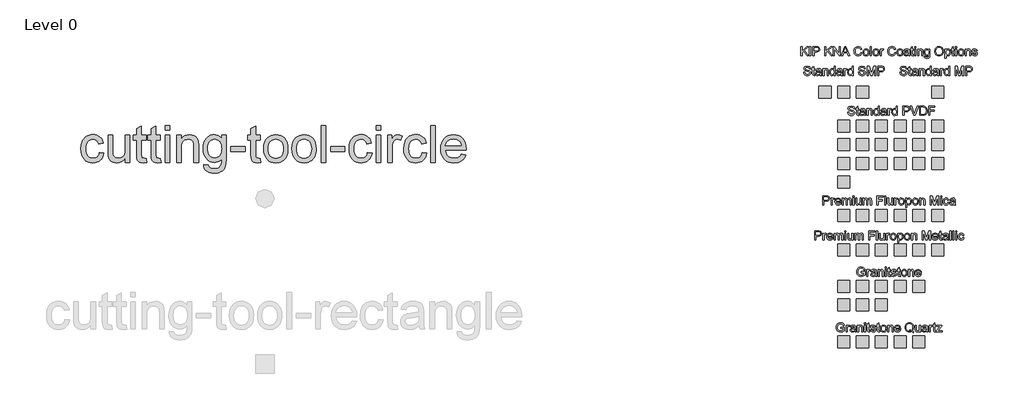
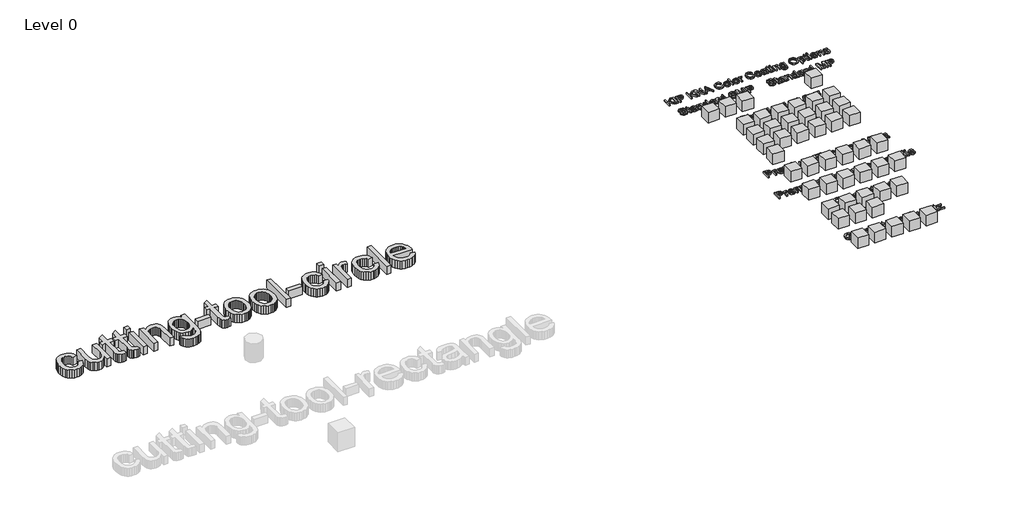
# One storey, part 4 of 4: 50 proxies.
"""IFC4 building model written with IfcOpenShell, lengths in millimetres."""

from ifc_helpers import new_model, si_unit, origin, origin_with_axes, place, context, project, spatial, polyline, outline, extrude, transform, mapped, element, save
from components import ks_color_sample_ks_color_sample_0243efec, r19_kna_color_range_kingspan_quadcore_4278cd54, r19_kna_color_range_kingspan_quadcore_c5814d20, r19_kna_color_range_kingspan_quadcore_91b79b7c

model = new_model("IFC4")

# Units and contexts
model_context = context("Model", 3, world=origin())
ifc_project = project(units=[si_unit("LENGTHUNIT", "METRE", prefix="MILLI")], contexts=[model_context])

# Site, building, storey
site = spatial("IfcSite", under=ifc_project)
building = spatial("IfcBuilding", under=site)
storey = spatial("IfcBuildingStorey", under=building, Name="Level 0", Elevation=0.0)

# Proxies
placement = place(None, origin())
element("IfcBuildingElementProxy", 1, Name="24\" Arial", ObjectType="24\" Arial", at=placement, inside=storey, context=model_context, shape_type="SweptSolid", body=[
    extrude(outline(polyline([(187.9481859, 12639.6724296), (264.0899595, 12630.1547079), (255.8084262, 12594.226238), (242.8609787, 12562.4338874), (225.2476167, 12534.777656), (202.9683405, 12511.257544), (176.9619095, 12492.4869981), (148.1670836, 12479.0794654), (116.5838626, 12471.0349457), (82.2122465, 12468.3534392), (39.5079767, 12472.0945358), (1.2186657, 12483.3178258), (-32.6556866, 12502.0233091), (-62.11508, 12528.2109857), (-85.9605048, 12561.3882392), (-102.9929511, 12601.0624531), (-113.2124189, 12647.2336274), (-116.6189081, 12699.9017622), (-110.8004572, 12767.6597613), (-103.5273935, 12798.1508609), (-93.3451043, 12826.3833605), (-80.1838798, 12851.7902866), (-63.97401, 12873.8046653), (-44.7154951, 12892.4264967), (-22.4083348, 12907.6557809), (1.9390011, 12919.4971651), (27.3180431, 12927.9552967), (53.7287914, 12933.0301757), (81.1712457, 12934.721802), (114.9526515, 12932.3981394), (145.5088136, 12925.4271519), (172.8397322, 12913.8088393), (196.9454072, 12897.5432016), (217.416874, 12877.0020249), (233.8451681, 12852.5570952), (246.2302893, 12824.2084124), (254.5722378, 12791.9559766), (178.4304642, 12782.4382549), (164.6186142, 12815.6573343), (143.1107939, 12839.4702279), (115.0967186, 12853.8025783), (81.7661033, 12858.5800285), (55.8944448, 12856.228482), (32.5602258, 12849.1738426), (11.7634462, 12837.4161102), (-6.4958939, 12820.9552849), (-21.3626867, 12799.410286), (-31.9818244, 12772.4000328), (-38.3533071, 12739.9245254), (-40.4771346, 12701.9837638), (-38.3997803, 12663.4713811), (-32.1677174, 12630.6194404), (-21.780946, 12603.4279416), (-7.2394659, 12581.8968846), (10.6573828, 12565.5336532), (31.1102604, 12553.8456307), (54.1191667, 12546.8328172), (79.6841017, 12544.4952127), (119.1120074, 12550.3322529), (136.163043, 12557.6285533), (151.4388004, 12567.8433737), (164.5117257, 12581.0882501), (174.9542651, 12597.4747182), (182.7664185, 12617.002778), (187.9481859, 12639.6724296)])), origin_with_axes(), (0.0, 0.0, 1.0), 152.4),
    extrude(outline(polyline([(616.245662, 12477.8711609), (616.245662, 12554.7565064), (588.6963191, 12516.9551645), (556.611187, 12489.954206), (519.9902657, 12473.7536309), (478.8335551, 12468.3534392), (441.7479012, 12472.1456564), (407.2275708, 12483.5223081), (378.2654411, 12500.6244643), (357.8543895, 12521.5931949), (344.1168967, 12547.0605361), (335.1754433, 12577.6585242), (330.7140113, 12648.4465793), (330.7140113, 12925.2040803), (406.8557848, 12925.2040803), (406.8557848, 12684.28675), (408.0083214, 12636.103284), (411.4659312, 12606.6578325), (422.5637434, 12580.7629373), (441.5805975, 12561.0768685), (467.2524211, 12548.6406266), (498.3151417, 12544.4952127), (531.1624351, 12548.7335731), (561.8905483, 12561.4486545), (587.2277644, 12581.4693307), (603.9023667, 12607.6244761), (613.1598381, 12643.4460575), (616.245662, 12692.4660421), (616.245662, 12925.2040803), (692.3874355, 12925.2040803), (692.3874355, 12477.8711609), (616.245662, 12477.8711609)])), origin_with_axes(), (0.0, 0.0, 1.0), 152.4),
    extrude(outline(polyline([(958.8836428, 12541.3722103), (968.4013645, 12475.6404448), (938.2495196, 12470.1751906), (911.4437488, 12468.3534392), (874.8971846, 12471.5136202), (847.6452706, 12480.9941633), (828.3867556, 12495.6053532), (815.8203887, 12514.1574748), (808.905169, 12546.0195353), (806.6000958, 12600.560542), (806.6000958, 12849.0623068), (749.4937656, 12849.0623068), (749.4937656, 12925.2040803), (806.6000958, 12925.2040803), (806.6000958, 13033.9143077), (882.7418693, 13078.6773425), (882.7418693, 12925.2040803), (958.8836428, 12925.2040803), (958.8836428, 12849.0623068), (882.7418693, 12849.0623068), (882.7418693, 12602.791258), (886.7571581, 12563.5306561), (899.7696682, 12549.6258595), (910.7559446, 12545.7778744), (925.7203313, 12544.4952127), (958.8836428, 12541.3722103)])), origin_with_axes(), (0.0, 0.0, 1.0), 152.4),
    extrude(outline(polyline([(1196.826685, 12541.3722103), (1206.3444067, 12475.6404448), (1176.1925618, 12470.1751906), (1149.386791, 12468.3534392), (1112.8402268, 12471.5136202), (1085.5883128, 12480.9941633), (1066.3297978, 12495.6053532), (1053.7634309, 12514.1574748), (1046.8482112, 12546.0195353), (1044.543138, 12600.560542), (1044.543138, 12849.0623068), (987.4368079, 12849.0623068), (987.4368079, 12925.2040803), (1044.543138, 12925.2040803), (1044.543138, 13033.9143077), (1120.6849115, 13078.6773425), (1120.6849115, 12925.2040803), (1196.826685, 12925.2040803), (1196.826685, 12849.0623068), (1120.6849115, 12849.0623068), (1120.6849115, 12602.791258), (1124.7002004, 12563.5306561), (1137.7127105, 12549.6258595), (1148.6989869, 12545.7778744), (1163.6633735, 12544.4952127), (1196.826685, 12541.3722103)])), origin_with_axes(), (0.0, 0.0, 1.0), 152.4),
    extrude(outline(polyline([(1272.9684586, 13010.8635755), (1272.9684586, 13087.005349), (1349.1102321, 13087.005349), (1349.1102321, 13010.8635755), (1272.9684586, 13010.8635755)])), origin_with_axes(), (0.0, 0.0, 1.0), 152.4),
    extrude(outline(polyline([(1272.9684586, 12477.8711609), (1272.9684586, 12925.2040803), (1349.1102321, 12925.2040803), (1349.1102321, 12477.8711609), (1272.9684586, 12477.8711609)])), origin_with_axes(), (0.0, 0.0, 1.0), 152.4),
    extrude(outline(polyline([(1463.3228924, 12477.8711609), (1463.3228924, 12925.2040803), (1539.4646659, 12925.2040803), (1539.4646659, 12862.7440317), (1565.91724, 12894.2343062), (1597.686354, 12916.7273594), (1634.7720079, 12930.2231913), (1677.1742016, 12934.721802), (1714.7059986, 12931.0968884), (1749.0776146, 12920.2221478), (1777.7423155, 12903.4545991), (1798.1533671, 12882.1512611), (1812.0023957, 12856.3679017), (1820.9810277, 12826.1602889), (1824.9963166, 12752.5466603), (1824.9963166, 12477.8711609), (1748.854543, 12477.8711609), (1748.854543, 12742.2853666), (1746.6610056, 12781.6575043), (1740.0803934, 12809.6529904), (1727.9415803, 12829.7108453), (1709.0734407, 12845.2700895), (1684.8887611, 12855.2525437), (1656.8003286, 12858.5800285), (1633.6798865, 12856.7118038), (1612.2045975, 12851.1071298), (1592.3744615, 12841.7660064), (1574.1894786, 12828.6884338), (1558.997373, 12810.3872677), (1548.145869, 12785.3753644), (1541.6349667, 12753.6527236), (1539.4646659, 12715.2193455), (1539.4646659, 12477.8711609), (1463.3228924, 12477.8711609)])), origin_with_axes(), (0.0, 0.0, 1.0), 152.4),
    extrude(outline(polyline([(1910.6558118, 12439.8002741), (1986.7975853, 12430.2825524), (1995.199949, 12406.4882482), (2011.4841759, 12390.129664), (2043.4949508, 12377.4145827), (2085.3952334, 12373.1762223), (2130.083911, 12377.9722617), (2148.1341215, 12383.967311), (2163.3215797, 12392.3603801), (2186.372312, 12415.4111123), (2200.5001801, 12446.1949934), (2204.6270047, 12478.9493403), (2205.7051841, 12534.977491), (2180.367968, 12509.9934716), (2152.0936424, 12492.1477434), (2120.8822074, 12481.4403065), (2086.733663, 12477.8711609), (2044.9867422, 12482.0258695), (2008.2310484, 12494.4899952), (1976.4665817, 12515.2635382), (1949.6933421, 12544.3464983), (1928.4504194, 12579.2386147), (1913.2769031, 12617.4396266), (1904.1727933, 12658.9495339), (1901.1380901, 12703.7683366), (1906.584755, 12765.2431523), (1922.9247499, 12821.7732141), (1935.0356789, 12847.263792), (1949.5818063, 12869.6778407), (1966.563132, 12889.0153602), (1985.9796561, 12905.2763505), (2007.5200077, 12918.1587355), (2030.872816, 12927.3604391), (2056.0380811, 12932.8814613), (2083.015803, 12934.721802), (2118.6236075, 12930.5577987), (2150.9411058, 12918.065789), (2179.968298, 12897.2457728), (2205.7051841, 12868.0977501), (2205.7051841, 12925.2040803), (2281.8469577, 12925.2040803), (2281.8469577, 12538.9927798), (2276.6419536, 12449.8199069), (2270.1356985, 12416.6519481), (2261.0269415, 12391.0963076), (2249.0972581, 12370.4854211), (2234.1282241, 12352.1517238), (2216.1198396, 12336.0952158), (2195.0721044, 12322.315897), (2171.1987957, 12311.2552634), (2144.7136903, 12303.3548108), (2115.6167882, 12298.6145393), (2083.9080894, 12297.0344488), (2046.6040113, 12299.2605175), (2013.0642664, 12305.9387235), (1983.2888549, 12317.069067), (1957.2777766, 12332.6515479), (1936.2672201, 12352.7047555), (1921.4933738, 12377.247279), (1912.9562377, 12406.2791186), (1910.6558118, 12439.8002741)]), holes=[polyline([(1977.2798636, 12708.9733406), (1979.3107446, 12671.3253605), (1985.4033878, 12639.1333399), (1995.557793, 12612.3972789), (2009.7739603, 12591.1171775), (2027.0573621, 12574.8840712), (2046.4134709, 12563.2889952), (2067.8422867, 12556.3319496), (2091.3438095, 12554.0129344), (2114.612966, 12556.3180076), (2135.9395406, 12563.2332273), (2155.3235333, 12574.7585934), (2172.7649442, 12590.8941059), (2187.1762992, 12611.9650777), (2197.4701242, 12638.2968214), (2203.6464191, 12669.889337), (2205.7051841, 12706.7426246), (2203.5860039, 12742.0576476), (2197.2284633, 12772.7532295), (2186.6325622, 12798.8293704), (2171.7983006, 12820.2860701), (2153.9804564, 12837.0396769), (2134.4338073, 12849.0065389), (2113.1583532, 12856.1866561), (2090.1540943, 12858.5800285), (2067.5355633, 12856.2238347), (2046.6737211, 12849.1552533), (2027.5685679, 12837.3742843), (2010.2201035, 12820.8809277), (1995.8087485, 12799.7495407), (1985.5149236, 12774.0544806), (1979.3386286, 12743.7957472), (1977.2798636, 12708.9733406)])]), origin_with_axes(), (0.0, 0.0, 1.0), 152.4),
    extrude(outline(polyline([(2357.9887312, 12658.707873), (2357.9887312, 12734.8496465), (2595.9317734, 12734.8496465), (2595.9317734, 12658.707873), (2357.9887312, 12658.707873)])), origin_with_axes(), (0.0, 0.0, 1.0), 152.4),
    extrude(outline(polyline([(2843.3925373, 12541.3722103), (2852.910259, 12475.6404448), (2822.7584142, 12470.1751906), (2795.9526433, 12468.3534392), (2759.4060792, 12471.5136202), (2732.1541651, 12480.9941633), (2712.8956501, 12495.6053532), (2700.3292832, 12514.1574748), (2693.4140635, 12546.0195353), (2691.1089903, 12600.560542), (2691.1089903, 12849.0623068), (2634.0026602, 12849.0623068), (2634.0026602, 12925.2040803), (2691.1089903, 12925.2040803), (2691.1089903, 13033.9143077), (2767.2507638, 13078.6773425), (2767.2507638, 12925.2040803), (2843.3925373, 12925.2040803), (2843.3925373, 12849.0623068), (2767.2507638, 12849.0623068), (2767.2507638, 12602.791258), (2771.2660527, 12563.5306561), (2784.2785628, 12549.6258595), (2795.2648392, 12545.7778744), (2810.2292258, 12544.4952127), (2843.3925373, 12541.3722103)])), origin_with_axes(), (0.0, 0.0, 1.0), 152.4),
    extrude(outline(polyline([(2900.4988675, 12701.5376206), (2904.6163975, 12759.4711746), (2916.9689874, 12809.3927402), (2937.5566374, 12851.3023174), (2966.3793473, 12885.1999063), (2995.3972449, 12906.8657357), (3027.4266091, 12922.3413281), (3062.4674399, 12931.6266835), (3100.5197374, 12934.721802), (3142.5269084, 12930.9528214), (3180.509496, 12919.6458795), (3214.4675001, 12900.8009765), (3244.4009207, 12874.4181122), (3268.8319085, 12841.3895731), (3286.282614, 12802.6076456), (3296.7530373, 12758.0723297), (3300.2431784, 12707.7836254), (3298.7002665, 12667.0265848), (3294.0715308, 12630.8611013), (3286.3569712, 12599.287175), (3275.5565878, 12572.3048058), (3261.805153, 12548.9984707), (3245.2374392, 12528.4526466), (3225.8534465, 12510.6673337), (3203.6531747, 12495.6425318), (3179.5010265, 12483.7035538), (3154.2614042, 12475.1757123), (3127.9343078, 12470.0590075), (3100.5197374, 12468.3534392), (3057.8991194, 12472.1084778), (3019.5633351, 12483.3735937), (2985.5123845, 12502.1487869), (2955.7462676, 12528.4340573), (2931.5755301, 12561.7832619), (2914.3107175, 12601.7502572), (2903.95183, 12648.3350435), (2900.4988675, 12701.5376206)]), holes=[polyline([(2976.640641, 12701.686335), (2978.8434731, 12664.7540429), (2985.4519693, 12632.7757992), (2996.4661296, 12605.7516041), (3011.8859541, 12583.6814575), (3030.642558, 12566.5374754), (3051.6670565, 12554.2917739), (3074.9594496, 12546.944353), (3100.5197374, 12544.4952127), (3125.9499, 12546.958295), (3149.1493466, 12554.3475418), (3170.1180772, 12566.6629532), (3188.8560918, 12583.9045291), (3204.2759163, 12606.1931), (3215.2900766, 12633.6494963), (3221.8985729, 12666.2737181), (3224.1014049, 12704.0657654), (3221.8846309, 12739.8269316), (3215.2343087, 12770.9686567), (3204.1504385, 12797.4909408), (3188.6330202, 12819.3937837), (3169.8252957, 12836.5377658), (3148.8705071, 12848.7834673), (3125.7686543, 12856.1308882), (3100.5197374, 12858.5800285), (3074.9594496, 12856.1401828), (3051.6670565, 12848.8206459), (3030.642558, 12836.6214176), (3011.8859541, 12819.5424981), (2996.4661296, 12797.537414), (2985.4519693, 12770.5596921), (2978.8434731, 12738.6093324), (2976.640641, 12701.686335)])]), origin_with_axes(), (0.0, 0.0, 1.0), 152.4),
    extrude(outline(polyline([(3366.8672303, 12701.5376206), (3370.9847603, 12759.4711746), (3383.3373502, 12809.3927402), (3403.9250002, 12851.3023174), (3432.7477101, 12885.1999063), (3461.7656077, 12906.8657357), (3493.7949719, 12922.3413281), (3528.8358027, 12931.6266835), (3566.8881002, 12934.721802), (3608.8952712, 12930.9528214), (3646.8778588, 12919.6458795), (3680.8358629, 12900.8009765), (3710.7692835, 12874.4181122), (3735.2002713, 12841.3895731), (3752.6509768, 12802.6076456), (3763.1214001, 12758.0723297), (3766.6115412, 12707.7836254), (3765.0686293, 12667.0265848), (3760.4398936, 12630.8611013), (3752.725334, 12599.287175), (3741.9249506, 12572.3048058), (3728.1735158, 12548.9984707), (3711.605802, 12528.4526466), (3692.2218093, 12510.6673337), (3670.0215375, 12495.6425318), (3645.8693893, 12483.7035538), (3620.629767, 12475.1757123), (3594.3026706, 12470.0590075), (3566.8881002, 12468.3534392), (3524.2674822, 12472.1084778), (3485.9316979, 12483.3735937), (3451.8807473, 12502.1487869), (3422.1146304, 12528.4340573), (3397.9438928, 12561.7832619), (3380.6790803, 12601.7502572), (3370.3201928, 12648.3350435), (3366.8672303, 12701.5376206)]), holes=[polyline([(3443.0090038, 12701.686335), (3445.2118359, 12664.7540429), (3451.8203321, 12632.7757992), (3462.8344924, 12605.7516041), (3478.2543169, 12583.6814575), (3497.0109208, 12566.5374754), (3518.0354193, 12554.2917739), (3541.3278124, 12546.944353), (3566.8881002, 12544.4952127), (3592.3182628, 12546.958295), (3615.5177094, 12554.3475418), (3636.48644, 12566.6629532), (3655.2244546, 12583.9045291), (3670.6442791, 12606.1931), (3681.6584394, 12633.6494963), (3688.2669357, 12666.2737181), (3690.4697677, 12704.0657654), (3688.2529937, 12739.8269316), (3681.6026715, 12770.9686567), (3670.5188013, 12797.4909408), (3655.001383, 12819.3937837), (3636.1936585, 12836.5377658), (3615.2388699, 12848.7834673), (3592.1370171, 12856.1308882), (3566.8881002, 12858.5800285), (3541.3278124, 12856.1401828), (3518.0354193, 12848.8206459), (3497.0109208, 12836.6214176), (3478.2543169, 12819.5424981), (3462.8344924, 12797.537414), (3451.8203321, 12770.5596921), (3445.2118359, 12738.6093324), (3443.0090038, 12701.686335)])]), origin_with_axes(), (0.0, 0.0, 1.0), 152.4),
    extrude(outline(polyline([(3852.2710364, 12477.8711609), (3852.2710364, 13087.005349), (3928.41281, 13087.005349), (3928.41281, 12477.8711609), (3852.2710364, 12477.8711609)])), origin_with_axes(), (0.0, 0.0, 1.0), 152.4),
    extrude(outline(polyline([(4004.5545835, 12658.707873), (4004.5545835, 12734.8496465), (4242.4976257, 12734.8496465), (4242.4976257, 12658.707873), (4004.5545835, 12658.707873)])), origin_with_axes(), (0.0, 0.0, 1.0), 152.4),
    extrude(outline(polyline([(4613.6887716, 12639.6724296), (4689.8305451, 12630.1547079), (4681.5490119, 12594.226238), (4668.6015643, 12562.4338874), (4650.9882024, 12534.777656), (4628.7089262, 12511.257544), (4602.7024952, 12492.4869981), (4573.9076692, 12479.0794654), (4542.3244482, 12471.0349457), (4507.9528322, 12468.3534392), (4465.2485624, 12472.0945358), (4426.9592514, 12483.3178258), (4393.0848991, 12502.0233091), (4363.6255057, 12528.2109857), (4339.7800809, 12561.3882392), (4322.7476346, 12601.0624531), (4312.5281668, 12647.2336274), (4309.1216776, 12699.9017622), (4314.9401285, 12767.6597613), (4322.2131922, 12798.1508609), (4332.3954814, 12826.3833605), (4345.5567059, 12851.7902866), (4361.7665756, 12873.8046653), (4381.0250906, 12892.4264967), (4403.3322508, 12907.6557809), (4427.6795867, 12919.4971651), (4453.0586288, 12927.9552967), (4479.469377, 12933.0301757), (4506.9118314, 12934.721802), (4540.6932372, 12932.3981394), (4571.2493993, 12925.4271519), (4598.5803179, 12913.8088393), (4622.6859929, 12897.5432016), (4643.1574597, 12877.0020249), (4659.5857538, 12852.5570952), (4671.970875, 12824.2084124), (4680.3128234, 12791.9559766), (4604.1710499, 12782.4382549), (4590.3591999, 12815.6573343), (4568.8513796, 12839.4702279), (4540.8373042, 12853.8025783), (4507.506689, 12858.5800285), (4481.6350305, 12856.228482), (4458.3008115, 12849.1738426), (4437.5040319, 12837.4161102), (4419.2446918, 12820.9552849), (4404.377899, 12799.410286), (4393.7587612, 12772.4000328), (4387.3872786, 12739.9245254), (4385.2634511, 12701.9837638), (4387.3408054, 12663.4713811), (4393.5728682, 12630.6194404), (4403.9596397, 12603.4279416), (4418.5011198, 12581.8968846), (4436.3979685, 12565.5336532), (4456.850846, 12553.8456307), (4479.8597523, 12546.8328172), (4505.4246874, 12544.4952127), (4544.8525931, 12550.3322529), (4561.9036287, 12557.6285533), (4577.1793861, 12567.8433737), (4590.2523114, 12581.0882501), (4600.6948508, 12597.4747182), (4608.5070042, 12617.002778), (4613.6887716, 12639.6724296)])), origin_with_axes(), (0.0, 0.0, 1.0), 152.4),
    extrude(outline(polyline([(4756.454597, 13010.8635755), (4756.454597, 13087.005349), (4832.5963705, 13087.005349), (4832.5963705, 13010.8635755), (4756.454597, 13010.8635755)])), origin_with_axes(), (0.0, 0.0, 1.0), 152.4),
    extrude(outline(polyline([(4756.454597, 12477.8711609), (4756.454597, 12925.2040803), (4832.5963705, 12925.2040803), (4832.5963705, 12477.8711609), (4756.454597, 12477.8711609)])), origin_with_axes(), (0.0, 0.0, 1.0), 152.4),
    extrude(outline(polyline([(4946.8090308, 12477.8711609), (4946.8090308, 12925.2040803), (5013.4330826, 12925.2040803), (5013.4330826, 12859.0261717), (5038.045316, 12897.3944872), (5060.7242622, 12919.9990762), (5083.4775656, 12931.0411205), (5108.3128707, 12934.721802), (5146.235043, 12928.8475831), (5184.752073, 12911.2249265), (5159.3219104, 12842.9650163), (5132.5533181, 12854.6762754), (5105.7847259, 12858.5800285), (5083.0500117, 12854.8249898), (5062.7319066, 12843.5598739), (5046.3175546, 12825.6397885), (5035.2940996, 12801.9198415), (5026.0366281, 12759.3875227), (5022.9508043, 12712.9886295), (5022.9508043, 12477.8711609), (4946.8090308, 12477.8711609)])), origin_with_axes(), (0.0, 0.0, 1.0), 152.4),
    extrude(outline(polyline([(5517.8723321, 12639.6724296), (5594.0141057, 12630.1547079), (5585.7325724, 12594.226238), (5572.7851249, 12562.4338874), (5555.1717629, 12534.777656), (5532.8924867, 12511.257544), (5506.8860557, 12492.4869981), (5478.0912298, 12479.0794654), (5446.5080088, 12471.0349457), (5412.1363927, 12468.3534392), (5369.4321229, 12472.0945358), (5331.1428119, 12483.3178258), (5297.2684596, 12502.0233091), (5267.8090662, 12528.2109857), (5243.9636414, 12561.3882392), (5226.9311951, 12601.0624531), (5216.7117273, 12647.2336274), (5213.3052381, 12699.9017622), (5219.123689, 12767.6597613), (5226.3967527, 12798.1508609), (5236.5790419, 12826.3833605), (5249.7402664, 12851.7902866), (5265.9501362, 12873.8046653), (5285.2086511, 12892.4264967), (5307.5158114, 12907.6557809), (5331.8631473, 12919.4971651), (5357.2421893, 12927.9552967), (5383.6529375, 12933.0301757), (5411.0953919, 12934.721802), (5444.8767977, 12932.3981394), (5475.4329598, 12925.4271519), (5502.7638784, 12913.8088393), (5526.8695534, 12897.5432016), (5547.3410202, 12877.0020249), (5563.7693143, 12852.5570952), (5576.1544355, 12824.2084124), (5584.496384, 12791.9559766), (5508.3546104, 12782.4382549), (5494.5427604, 12815.6573343), (5473.0349401, 12839.4702279), (5445.0208647, 12853.8025783), (5411.6902495, 12858.5800285), (5385.818591, 12856.228482), (5362.484372, 12849.1738426), (5341.6875924, 12837.4161102), (5323.4282523, 12820.9552849), (5308.5614595, 12799.410286), (5297.9423218, 12772.4000328), (5291.5708391, 12739.9245254), (5289.4470116, 12701.9837638), (5291.5243659, 12663.4713811), (5297.7564288, 12630.6194404), (5308.1432002, 12603.4279416), (5322.6846803, 12581.8968846), (5340.581529, 12565.5336532), (5361.0344066, 12553.8456307), (5384.0433128, 12546.8328172), (5409.6082479, 12544.4952127), (5449.0361536, 12550.3322529), (5466.0871892, 12557.6285533), (5481.3629466, 12567.8433737), (5494.4358719, 12581.0882501), (5504.8784113, 12597.4747182), (5512.6905647, 12617.002778), (5517.8723321, 12639.6724296)])), origin_with_axes(), (0.0, 0.0, 1.0), 152.4),
    extrude(outline(polyline([(5660.6381575, 12477.8711609), (5660.6381575, 13087.005349), (5736.779931, 13087.005349), (5736.779931, 12477.8711609), (5660.6381575, 12477.8711609)])), origin_with_axes(), (0.0, 0.0, 1.0), 152.4),
    extrude(outline(polyline([(6164.1851206, 12611.1192645), (6238.8397501, 12601.6015428), (6227.3933885, 12571.7006535), (6211.9410328, 12545.3503205), (6192.4826828, 12522.5505438), (6169.0183387, 12503.3013235), (6141.7896612, 12488.0116241), (6111.0383114, 12477.0904103), (6076.7642892, 12470.5376819), (6038.9675946, 12468.3534392), (5991.7228882, 12472.1224198), (5949.627418, 12483.4293616), (5912.6811839, 12502.2742647), (5880.884186, 12528.6571289), (5855.3146036, 12561.8436771), (5837.0506161, 12601.0996317), (5826.0922237, 12646.4249929), (5822.4394262, 12697.8197605), (5826.1294023, 12750.9572751), (5837.1993305, 12797.7930169), (5855.649211, 12838.3269859), (5881.4790436, 12872.5591822), (5913.1923897, 12899.7553283), (5949.2928106, 12919.181147), (5989.7803064, 12930.8366382), (6034.654877, 12934.721802), (6078.0841295, 12930.8459329), (6117.3586735, 12919.2183256), (6152.4785088, 12899.8389802), (6183.4436356, 12872.7078966), (6208.7204365, 12838.5500575), (6226.7752943, 12798.0904457), (6237.608209, 12751.3290611), (6241.2191805, 12698.2659037), (6240.7730373, 12677.7433163), (5898.5811997, 12677.7433163), (5902.9915112, 12647.3591052), (5911.7610135, 12620.748522), (5924.8897068, 12597.9115667), (5942.3775909, 12578.8482394), (5963.2580224, 12563.8187902), (5986.5643574, 12553.0834694), (6012.2965962, 12546.6422769), (6040.4547387, 12544.4952127), (6080.979413, 12548.4733229), (6115.1093682, 12560.4076536), (6142.844604, 12581.0417768), (6164.1851206, 12611.1192645)]), holes=[polyline([(5898.5811997, 12753.8850899), (6165.077407, 12753.8850899), (6154.7789347, 12794.1123354), (6145.9211332, 12809.9318299), (6134.5909547, 12822.8885721), (6113.8267064, 12838.5035843), (6090.1997059, 12849.6571644), (6063.7099532, 12856.3493124), (6034.3574482, 12858.5800285), (6007.5842086, 12856.800103), (5983.0323904, 12851.4603265), (5960.7019936, 12842.560699), (5940.5930181, 12830.1012206), (5923.7185809, 12814.6581595), (5911.0917987, 12796.807784), (5902.7126717, 12776.5500941), (5898.5811997, 12753.8850899)])]), origin_with_axes(), (0.0, 0.0, 1.0), 152.4),
])
ks_color_sample_ks_color_sample_shape = ks_color_sample_ks_color_sample_0243efec(model_context)
element("IfcBuildingElementProxy", 2, Name="KS_Color Sample : KS_Color Sample", ObjectType="KS_Color Sample : KS_Color Sample", at=placement, inside=storey, context=model_context, shape_type="MappedRepresentation", body=[
    mapped(ks_color_sample_ks_color_sample_shape, transform((12166.5853815, 13639.2290821, 0.0), x_axis=(1.0, 0.0, 0.0), y_axis=(0.0, 1.0, 0.0), z_axis=(0.0, 0.0, 1.0))),
])
element("IfcBuildingElementProxy", 3, Name="KS_Color Sample : KS_Color Sample", ObjectType="KS_Color Sample : KS_Color Sample", at=placement, inside=storey, context=model_context, shape_type="MappedRepresentation", body=[
    mapped(ks_color_sample_ks_color_sample_shape, transform((12476.5853815, 13639.2290821, 0.0), x_axis=(1.0, 0.0, 0.0), y_axis=(0.0, 1.0, 0.0), z_axis=(0.0, 0.0, 1.0))),
])
element("IfcBuildingElementProxy", 4, Name="KS_Color Sample : KS_Color Sample", ObjectType="KS_Color Sample : KS_Color Sample", at=placement, inside=storey, context=model_context, shape_type="MappedRepresentation", body=[
    mapped(ks_color_sample_ks_color_sample_shape, transform((12786.5853815, 13639.2290821, 0.0), x_axis=(1.0, 0.0, 0.0), y_axis=(0.0, 1.0, 0.0), z_axis=(0.0, 0.0, 1.0))),
])
element("IfcBuildingElementProxy", 5, Name="KS_Color Sample : KS_Color Sample", ObjectType="KS_Color Sample : KS_Color Sample", at=placement, inside=storey, context=model_context, shape_type="MappedRepresentation", body=[
    mapped(ks_color_sample_ks_color_sample_shape, transform((14026.5853815, 13639.2290821, 0.0), x_axis=(1.0, 0.0, 0.0), y_axis=(0.0, 1.0, 0.0), z_axis=(0.0, 0.0, 1.0))),
])
element("IfcBuildingElementProxy", 6, Name="KS_Color Sample : KS_Color Sample", ObjectType="KS_Color Sample : KS_Color Sample", at=placement, inside=storey, context=model_context, shape_type="MappedRepresentation", body=[
    mapped(ks_color_sample_ks_color_sample_shape, transform((12786.5853815, 13079.2290821, 0.0), x_axis=(1.0, 0.0, 0.0), y_axis=(0.0, 1.0, 0.0), z_axis=(0.0, 0.0, 1.0))),
])
element("IfcBuildingElementProxy", 7, Name="KS_Color Sample : KS_Color Sample", ObjectType="KS_Color Sample : KS_Color Sample", at=placement, inside=storey, context=model_context, shape_type="MappedRepresentation", body=[
    mapped(ks_color_sample_ks_color_sample_shape, transform((13096.5853815, 13079.2290821, 0.0), x_axis=(1.0, 0.0, 0.0), y_axis=(0.0, 1.0, 0.0), z_axis=(0.0, 0.0, 1.0))),
])
element("IfcBuildingElementProxy", 8, Name="KS_Color Sample : KS_Color Sample", ObjectType="KS_Color Sample : KS_Color Sample", at=placement, inside=storey, context=model_context, shape_type="MappedRepresentation", body=[
    mapped(ks_color_sample_ks_color_sample_shape, transform((13406.5853815, 13079.2290821, 0.0), x_axis=(1.0, 0.0, 0.0), y_axis=(0.0, 1.0, 0.0), z_axis=(0.0, 0.0, 1.0))),
])
element("IfcBuildingElementProxy", 9, Name="KS_Color Sample : KS_Color Sample", ObjectType="KS_Color Sample : KS_Color Sample", at=placement, inside=storey, context=model_context, shape_type="MappedRepresentation", body=[
    mapped(ks_color_sample_ks_color_sample_shape, transform((13716.5853815, 13079.2290821, 0.0), x_axis=(1.0, 0.0, 0.0), y_axis=(0.0, 1.0, 0.0), z_axis=(0.0, 0.0, 1.0))),
])
element("IfcBuildingElementProxy", 10, Name="KS_Color Sample : KS_Color Sample", ObjectType="KS_Color Sample : KS_Color Sample", at=placement, inside=storey, context=model_context, shape_type="MappedRepresentation", body=[
    mapped(ks_color_sample_ks_color_sample_shape, transform((12476.5853815, 11599.2290821, 0.0), x_axis=(1.0, 0.0, 0.0), y_axis=(0.0, 1.0, 0.0), z_axis=(0.0, 0.0, 1.0))),
])
element("IfcBuildingElementProxy", 11, Name="KS_Color Sample : KS_Color Sample", ObjectType="KS_Color Sample : KS_Color Sample", at=placement, inside=storey, context=model_context, shape_type="MappedRepresentation", body=[
    mapped(ks_color_sample_ks_color_sample_shape, transform((12786.5853815, 11599.2290821, 0.0), x_axis=(1.0, 0.0, 0.0), y_axis=(0.0, 1.0, 0.0), z_axis=(0.0, 0.0, 1.0))),
])
element("IfcBuildingElementProxy", 12, Name="KS_Color Sample : KS_Color Sample", ObjectType="KS_Color Sample : KS_Color Sample", at=placement, inside=storey, context=model_context, shape_type="MappedRepresentation", body=[
    mapped(ks_color_sample_ks_color_sample_shape, transform((13096.5853815, 11599.2290821, 0.0), x_axis=(1.0, 0.0, 0.0), y_axis=(0.0, 1.0, 0.0), z_axis=(0.0, 0.0, 1.0))),
])
element("IfcBuildingElementProxy", 13, Name="KS_Color Sample : KS_Color Sample", ObjectType="KS_Color Sample : KS_Color Sample", at=placement, inside=storey, context=model_context, shape_type="MappedRepresentation", body=[
    mapped(ks_color_sample_ks_color_sample_shape, transform((13406.5853815, 11599.2290821, 0.0), x_axis=(1.0, 0.0, 0.0), y_axis=(0.0, 1.0, 0.0), z_axis=(0.0, 0.0, 1.0))),
])
element("IfcBuildingElementProxy", 14, Name="KS_Color Sample : KS_Color Sample", ObjectType="KS_Color Sample : KS_Color Sample", at=placement, inside=storey, context=model_context, shape_type="MappedRepresentation", body=[
    mapped(ks_color_sample_ks_color_sample_shape, transform((14026.5853815, 13079.2290821, 0.0), x_axis=(1.0, 0.0, 0.0), y_axis=(0.0, 1.0, 0.0), z_axis=(0.0, 0.0, 1.0))),
])
element("IfcBuildingElementProxy", 15, Name="KS_Color Sample : KS_Color Sample", ObjectType="KS_Color Sample : KS_Color Sample", at=placement, inside=storey, context=model_context, shape_type="MappedRepresentation", body=[
    mapped(ks_color_sample_ks_color_sample_shape, transform((13716.5853815, 12769.2290821, 0.0), x_axis=(1.0, 0.0, 0.0), y_axis=(0.0, 1.0, 0.0), z_axis=(0.0, 0.0, 1.0))),
])
element("IfcBuildingElementProxy", 16, Name="KS_Color Sample : KS_Color Sample", ObjectType="KS_Color Sample : KS_Color Sample", at=placement, inside=storey, context=model_context, shape_type="MappedRepresentation", body=[
    mapped(ks_color_sample_ks_color_sample_shape, transform((14026.5853815, 12769.2290821, 0.0), x_axis=(1.0, 0.0, 0.0), y_axis=(0.0, 1.0, 0.0), z_axis=(0.0, 0.0, 1.0))),
])
element("IfcBuildingElementProxy", 17, Name="KS_Color Sample : KS_Color Sample", ObjectType="KS_Color Sample : KS_Color Sample", at=placement, inside=storey, context=model_context, shape_type="MappedRepresentation", body=[
    mapped(ks_color_sample_ks_color_sample_shape, transform((12476.5853815, 12769.2290821, 0.0), x_axis=(1.0, 0.0, 0.0), y_axis=(0.0, 1.0, 0.0), z_axis=(0.0, 0.0, 1.0))),
])
element("IfcBuildingElementProxy", 18, Name="KS_Color Sample : KS_Color Sample", ObjectType="KS_Color Sample : KS_Color Sample", at=placement, inside=storey, context=model_context, shape_type="MappedRepresentation", body=[
    mapped(ks_color_sample_ks_color_sample_shape, transform((13096.5853815, 12769.2290821, 0.0), x_axis=(1.0, 0.0, 0.0), y_axis=(0.0, 1.0, 0.0), z_axis=(0.0, 0.0, 1.0))),
])
element("IfcBuildingElementProxy", 19, Name="KS_Color Sample : KS_Color Sample", ObjectType="KS_Color Sample : KS_Color Sample", at=placement, inside=storey, context=model_context, shape_type="MappedRepresentation", body=[
    mapped(ks_color_sample_ks_color_sample_shape, transform((13406.5853815, 12769.2290821, 0.0), x_axis=(1.0, 0.0, 0.0), y_axis=(0.0, 1.0, 0.0), z_axis=(0.0, 0.0, 1.0))),
])
element("IfcBuildingElementProxy", 20, Name="KS_Color Sample : KS_Color Sample", ObjectType="KS_Color Sample : KS_Color Sample", at=placement, inside=storey, context=model_context, shape_type="MappedRepresentation", body=[
    mapped(ks_color_sample_ks_color_sample_shape, transform((12476.5853815, 12459.2290821, 0.0), x_axis=(1.0, 0.0, 0.0), y_axis=(0.0, 1.0, 0.0), z_axis=(0.0, 0.0, 1.0))),
])
element("IfcBuildingElementProxy", 21, Name="KS_Color Sample : KS_Color Sample", ObjectType="KS_Color Sample : KS_Color Sample", at=placement, inside=storey, context=model_context, shape_type="MappedRepresentation", body=[
    mapped(ks_color_sample_ks_color_sample_shape, transform((12786.5853815, 12459.2290821, 0.0), x_axis=(1.0, 0.0, 0.0), y_axis=(0.0, 1.0, 0.0), z_axis=(0.0, 0.0, 1.0))),
])
element("IfcBuildingElementProxy", 22, Name="KS_Color Sample : KS_Color Sample", ObjectType="KS_Color Sample : KS_Color Sample", at=placement, inside=storey, context=model_context, shape_type="MappedRepresentation", body=[
    mapped(ks_color_sample_ks_color_sample_shape, transform((13096.5853815, 12459.2290821, 0.0), x_axis=(1.0, 0.0, 0.0), y_axis=(0.0, 1.0, 0.0), z_axis=(0.0, 0.0, 1.0))),
])
element("IfcBuildingElementProxy", 23, Name="KS_Color Sample : KS_Color Sample", ObjectType="KS_Color Sample : KS_Color Sample", at=placement, inside=storey, context=model_context, shape_type="MappedRepresentation", body=[
    mapped(ks_color_sample_ks_color_sample_shape, transform((13406.5853815, 12459.2290821, 0.0), x_axis=(1.0, 0.0, 0.0), y_axis=(0.0, 1.0, 0.0), z_axis=(0.0, 0.0, 1.0))),
])
element("IfcBuildingElementProxy", 24, Name="KS_Color Sample : KS_Color Sample", ObjectType="KS_Color Sample : KS_Color Sample", at=placement, inside=storey, context=model_context, shape_type="MappedRepresentation", body=[
    mapped(ks_color_sample_ks_color_sample_shape, transform((13716.5853815, 12459.2290821, 0.0), x_axis=(1.0, 0.0, 0.0), y_axis=(0.0, 1.0, 0.0), z_axis=(0.0, 0.0, 1.0))),
])
element("IfcBuildingElementProxy", 25, Name="KS_Color Sample : KS_Color Sample", ObjectType="KS_Color Sample : KS_Color Sample", at=placement, inside=storey, context=model_context, shape_type="MappedRepresentation", body=[
    mapped(ks_color_sample_ks_color_sample_shape, transform((14026.5853815, 12459.2290821, 0.0), x_axis=(1.0, 0.0, 0.0), y_axis=(0.0, 1.0, 0.0), z_axis=(0.0, 0.0, 1.0))),
])
element("IfcBuildingElementProxy", 26, Name="KS_Color Sample : KS_Color Sample", ObjectType="KS_Color Sample : KS_Color Sample", at=placement, inside=storey, context=model_context, shape_type="MappedRepresentation", body=[
    mapped(ks_color_sample_ks_color_sample_shape, transform((12476.5853815, 12149.2290821, 0.0), x_axis=(1.0, 0.0, 0.0), y_axis=(0.0, 1.0, 0.0), z_axis=(0.0, 0.0, 1.0))),
])
element("IfcBuildingElementProxy", 27, Name="KS_Color Sample : KS_Color Sample", ObjectType="KS_Color Sample : KS_Color Sample", at=placement, inside=storey, context=model_context, shape_type="MappedRepresentation", body=[
    mapped(ks_color_sample_ks_color_sample_shape, transform((13716.5853815, 11599.2290821, 0.0), x_axis=(1.0, 0.0, 0.0), y_axis=(0.0, 1.0, 0.0), z_axis=(0.0, 0.0, 1.0))),
])
element("IfcBuildingElementProxy", 28, Name="KS_Color Sample : KS_Color Sample", ObjectType="KS_Color Sample : KS_Color Sample", at=placement, inside=storey, context=model_context, shape_type="MappedRepresentation", body=[
    mapped(ks_color_sample_ks_color_sample_shape, transform((14026.5853815, 11599.2290821, 0.0), x_axis=(1.0, 0.0, 0.0), y_axis=(0.0, 1.0, 0.0), z_axis=(0.0, 0.0, 1.0))),
])
element("IfcBuildingElementProxy", 29, Name="KS_Color Sample : KS_Color Sample", ObjectType="KS_Color Sample : KS_Color Sample", at=placement, inside=storey, context=model_context, shape_type="MappedRepresentation", body=[
    mapped(ks_color_sample_ks_color_sample_shape, transform((12476.5853815, 11029.2290821, 0.0), x_axis=(1.0, 0.0, 0.0), y_axis=(0.0, 1.0, 0.0), z_axis=(0.0, 0.0, 1.0))),
])
element("IfcBuildingElementProxy", 30, Name="KS_Color Sample : KS_Color Sample", ObjectType="KS_Color Sample : KS_Color Sample", at=placement, inside=storey, context=model_context, shape_type="MappedRepresentation", body=[
    mapped(ks_color_sample_ks_color_sample_shape, transform((12786.5853815, 11029.2290821, 0.0), x_axis=(1.0, 0.0, 0.0), y_axis=(0.0, 1.0, 0.0), z_axis=(0.0, 0.0, 1.0))),
])
element("IfcBuildingElementProxy", 31, Name="KS_Color Sample : KS_Color Sample", ObjectType="KS_Color Sample : KS_Color Sample", at=placement, inside=storey, context=model_context, shape_type="MappedRepresentation", body=[
    mapped(ks_color_sample_ks_color_sample_shape, transform((13096.5853815, 11029.2290821, 0.0), x_axis=(1.0, 0.0, 0.0), y_axis=(0.0, 1.0, 0.0), z_axis=(0.0, 0.0, 1.0))),
])
element("IfcBuildingElementProxy", 32, Name="KS_Color Sample : KS_Color Sample", ObjectType="KS_Color Sample : KS_Color Sample", at=placement, inside=storey, context=model_context, shape_type="MappedRepresentation", body=[
    mapped(ks_color_sample_ks_color_sample_shape, transform((13406.5853815, 11029.2290821, 0.0), x_axis=(1.0, 0.0, 0.0), y_axis=(0.0, 1.0, 0.0), z_axis=(0.0, 0.0, 1.0))),
])
element("IfcBuildingElementProxy", 33, Name="KS_Color Sample : KS_Color Sample", ObjectType="KS_Color Sample : KS_Color Sample", at=placement, inside=storey, context=model_context, shape_type="MappedRepresentation", body=[
    mapped(ks_color_sample_ks_color_sample_shape, transform((13716.5853815, 11029.2290821, 0.0), x_axis=(1.0, 0.0, 0.0), y_axis=(0.0, 1.0, 0.0), z_axis=(0.0, 0.0, 1.0))),
])
element("IfcBuildingElementProxy", 34, Name="KS_Color Sample : KS_Color Sample", ObjectType="KS_Color Sample : KS_Color Sample", at=placement, inside=storey, context=model_context, shape_type="MappedRepresentation", body=[
    mapped(ks_color_sample_ks_color_sample_shape, transform((14026.5853815, 11029.2290821, 0.0), x_axis=(1.0, 0.0, 0.0), y_axis=(0.0, 1.0, 0.0), z_axis=(0.0, 0.0, 1.0))),
])
element("IfcBuildingElementProxy", 35, Name="KS_Color Sample : KS_Color Sample", ObjectType="KS_Color Sample : KS_Color Sample", at=placement, inside=storey, context=model_context, shape_type="MappedRepresentation", body=[
    mapped(ks_color_sample_ks_color_sample_shape, transform((12476.5853815, 10429.2290821, 0.0), x_axis=(1.0, 0.0, 0.0), y_axis=(0.0, 1.0, 0.0), z_axis=(0.0, 0.0, 1.0))),
])
element("IfcBuildingElementProxy", 36, Name="KS_Color Sample : KS_Color Sample", ObjectType="KS_Color Sample : KS_Color Sample", at=placement, inside=storey, context=model_context, shape_type="MappedRepresentation", body=[
    mapped(ks_color_sample_ks_color_sample_shape, transform((12786.5853815, 10429.2290821, 0.0), x_axis=(1.0, 0.0, 0.0), y_axis=(0.0, 1.0, 0.0), z_axis=(0.0, 0.0, 1.0))),
])
element("IfcBuildingElementProxy", 37, Name="KS_Color Sample : KS_Color Sample", ObjectType="KS_Color Sample : KS_Color Sample", at=placement, inside=storey, context=model_context, shape_type="MappedRepresentation", body=[
    mapped(ks_color_sample_ks_color_sample_shape, transform((13096.5853815, 10429.2290821, 0.0), x_axis=(1.0, 0.0, 0.0), y_axis=(0.0, 1.0, 0.0), z_axis=(0.0, 0.0, 1.0))),
])
element("IfcBuildingElementProxy", 38, Name="KS_Color Sample : KS_Color Sample", ObjectType="KS_Color Sample : KS_Color Sample", at=placement, inside=storey, context=model_context, shape_type="MappedRepresentation", body=[
    mapped(ks_color_sample_ks_color_sample_shape, transform((13406.5853815, 10429.2290821, 0.0), x_axis=(1.0, 0.0, 0.0), y_axis=(0.0, 1.0, 0.0), z_axis=(0.0, 0.0, 1.0))),
])
element("IfcBuildingElementProxy", 39, Name="KS_Color Sample : KS_Color Sample", ObjectType="KS_Color Sample : KS_Color Sample", at=placement, inside=storey, context=model_context, shape_type="MappedRepresentation", body=[
    mapped(ks_color_sample_ks_color_sample_shape, transform((13716.5853815, 10429.2290821, 0.0), x_axis=(1.0, 0.0, 0.0), y_axis=(0.0, 1.0, 0.0), z_axis=(0.0, 0.0, 1.0))),
])
element("IfcBuildingElementProxy", 40, Name="KS_Color Sample : KS_Color Sample", ObjectType="KS_Color Sample : KS_Color Sample", at=placement, inside=storey, context=model_context, shape_type="MappedRepresentation", body=[
    mapped(ks_color_sample_ks_color_sample_shape, transform((12476.5853815, 10119.2290821, 0.0), x_axis=(1.0, 0.0, 0.0), y_axis=(0.0, 1.0, 0.0), z_axis=(0.0, 0.0, 1.0))),
])
element("IfcBuildingElementProxy", 41, Name="KS_Color Sample : KS_Color Sample", ObjectType="KS_Color Sample : KS_Color Sample", at=placement, inside=storey, context=model_context, shape_type="MappedRepresentation", body=[
    mapped(ks_color_sample_ks_color_sample_shape, transform((12786.5853815, 10119.2290821, 0.0), x_axis=(1.0, 0.0, 0.0), y_axis=(0.0, 1.0, 0.0), z_axis=(0.0, 0.0, 1.0))),
])
element("IfcBuildingElementProxy", 42, Name="KS_Color Sample : KS_Color Sample", ObjectType="KS_Color Sample : KS_Color Sample", at=placement, inside=storey, context=model_context, shape_type="MappedRepresentation", body=[
    mapped(ks_color_sample_ks_color_sample_shape, transform((13096.5853815, 10119.2290821, 0.0), x_axis=(1.0, 0.0, 0.0), y_axis=(0.0, 1.0, 0.0), z_axis=(0.0, 0.0, 1.0))),
])
element("IfcBuildingElementProxy", 43, Name="KS_Color Sample : KS_Color Sample", ObjectType="KS_Color Sample : KS_Color Sample", at=placement, inside=storey, context=model_context, shape_type="MappedRepresentation", body=[
    mapped(ks_color_sample_ks_color_sample_shape, transform((12476.5853815, 9509.2290821, 0.0), x_axis=(1.0, 0.0, 0.0), y_axis=(0.0, 1.0, 0.0), z_axis=(0.0, 0.0, 1.0))),
])
element("IfcBuildingElementProxy", 44, Name="KS_Color Sample : KS_Color Sample", ObjectType="KS_Color Sample : KS_Color Sample", at=placement, inside=storey, context=model_context, shape_type="MappedRepresentation", body=[
    mapped(ks_color_sample_ks_color_sample_shape, transform((12786.5853815, 9509.2290821, 0.0), x_axis=(1.0, 0.0, 0.0), y_axis=(0.0, 1.0, 0.0), z_axis=(0.0, 0.0, 1.0))),
])
element("IfcBuildingElementProxy", 45, Name="KS_Color Sample : KS_Color Sample", ObjectType="KS_Color Sample : KS_Color Sample", at=placement, inside=storey, context=model_context, shape_type="MappedRepresentation", body=[
    mapped(ks_color_sample_ks_color_sample_shape, transform((13096.5853815, 9509.2290821, 0.0), x_axis=(1.0, 0.0, 0.0), y_axis=(0.0, 1.0, 0.0), z_axis=(0.0, 0.0, 1.0))),
])
element("IfcBuildingElementProxy", 46, Name="KS_Color Sample : KS_Color Sample", ObjectType="KS_Color Sample : KS_Color Sample", at=placement, inside=storey, context=model_context, shape_type="MappedRepresentation", body=[
    mapped(ks_color_sample_ks_color_sample_shape, transform((13406.5853815, 9509.2290821, 0.0), x_axis=(1.0, 0.0, 0.0), y_axis=(0.0, 1.0, 0.0), z_axis=(0.0, 0.0, 1.0))),
])
element("IfcBuildingElementProxy", 47, Name="KS_Color Sample : KS_Color Sample", ObjectType="KS_Color Sample : KS_Color Sample", at=placement, inside=storey, context=model_context, shape_type="MappedRepresentation", body=[
    mapped(ks_color_sample_ks_color_sample_shape, transform((13716.5853815, 9509.2290821, 0.0), x_axis=(1.0, 0.0, 0.0), y_axis=(0.0, 1.0, 0.0), z_axis=(0.0, 0.0, 1.0))),
])
element("IfcBuildingElementProxy", 48, Name="KS_Color Sample : KS_Color Sample", ObjectType="KS_Color Sample : KS_Color Sample", at=placement, inside=storey, context=model_context, shape_type="MappedRepresentation", body=[
    mapped(ks_color_sample_ks_color_sample_shape, transform((12476.5853815, 13079.2290821, 0.0), x_axis=(1.0, 0.0, 0.0), y_axis=(0.0, 1.0, 0.0), z_axis=(0.0, 0.0, 1.0))),
])
element("IfcBuildingElementProxy", 49, Name="KS_Color Sample : KS_Color Sample", ObjectType="KS_Color Sample : KS_Color Sample", at=placement, inside=storey, context=model_context, shape_type="MappedRepresentation", body=[
    mapped(ks_color_sample_ks_color_sample_shape, transform((12786.5853815, 12769.2290821, 0.0), x_axis=(1.0, 0.0, 0.0), y_axis=(0.0, 1.0, 0.0), z_axis=(0.0, 0.0, 1.0))),
])
r19_kna_color_range_kingspan_quadcore_shape = r19_kna_color_range_kingspan_quadcore_4278cd54(model_context)
r19_kna_color_range_kingspan_quadcore_2_shape = r19_kna_color_range_kingspan_quadcore_c5814d20(model_context)
r19_kna_color_range_kingspan_quadcore_3_shape = r19_kna_color_range_kingspan_quadcore_91b79b7c(model_context)
element("IfcBuildingElementProxy", 50, Name="R19_KNA_Color Range : Kingspan Quadcore", ObjectType="R19_KNA_Color Range : Kingspan Quadcore", at=placement, inside=storey, context=model_context, shape_type="MappedRepresentation", body=[
    mapped(r19_kna_color_range_kingspan_quadcore_shape, transform((13221.5853815, 13539.2290821, 0.0), x_axis=(1.0, 0.0, 0.0), y_axis=(0.0, 1.0, 0.0), z_axis=(0.0, 0.0, 1.0))),
    mapped(r19_kna_color_range_kingspan_quadcore_2_shape, transform((13221.5853815, 13539.2290821, 0.0), x_axis=(1.0, 0.0, 0.0), y_axis=(0.0, 1.0, 0.0), z_axis=(0.0, 0.0, 1.0))),
    mapped(r19_kna_color_range_kingspan_quadcore_3_shape, transform((13221.5853815, 13539.2290821, 0.0), x_axis=(1.0, 0.0, 0.0), y_axis=(0.0, 1.0, 0.0), z_axis=(0.0, 0.0, 1.0))),
])

save(model, "model.ifc")
